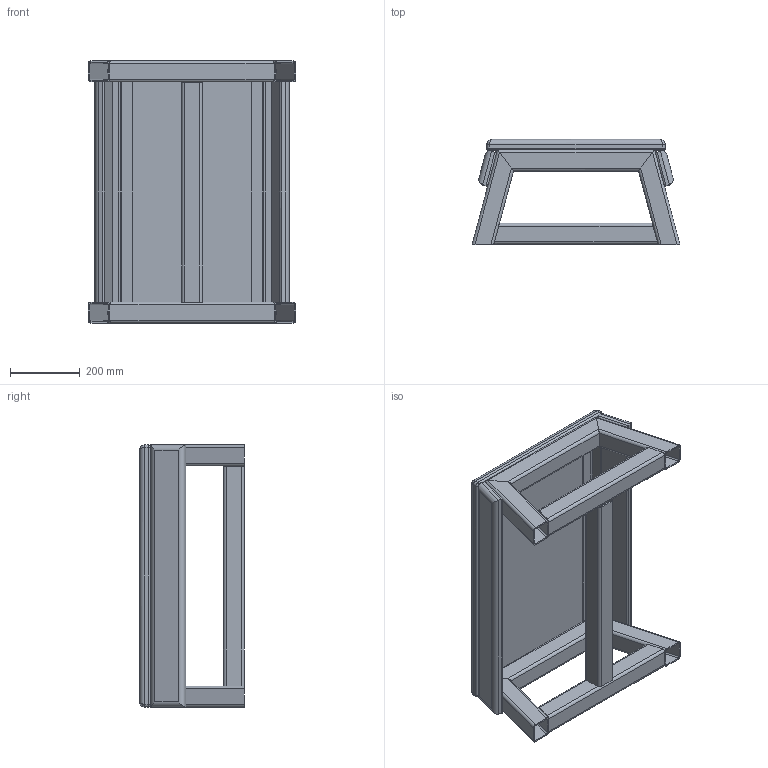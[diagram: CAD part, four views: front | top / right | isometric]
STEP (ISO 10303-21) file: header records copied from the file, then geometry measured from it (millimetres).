
FILE_DESCRIPTION(/* description */ (''),/* implementation_level */ '2;1');
FILE_NAME(/* name */ 'OGPB300_3D_Low.step',/* time_stamp */ '2025-11-11T16:11:24+02:00',/* author */ (''),/* organization */ (''),/* preprocessor_version */ 'ST-DEVELOPER v20.1',/* originating_system */ 'Autodesk Translation Framework v14.21.0.0',/* authorisation */ '');
FILE_SCHEMA (('AUTOMOTIVE_DESIGN { 1 0 10303 214 3 1 1 }'));
Length unit declared in the file: millimetre
Products named in the file (1): OGPB300_3D_Low
Bounding box: 594.68 x 299.98 x 750 mm (x, y, z)
Volume: 18863128.8 mm3; surface area: 2836628.1 mm2
Topology: 14 solids, 14 shells, 272 faces, 660 edges, 420 vertices
Faces by surface type: plane 140, cylinder 124, bspline 8
Full cylindrical faces by diameter (mm): 8.5 x8, 11 x4, 11.5 x8
Entity records: 8230 total; most frequent: CARTESIAN_POINT 1569, DIRECTION 1422, ORIENTED_EDGE 1312, EDGE_CURVE 656, AXIS2_PLACEMENT_3D 501, LINE 420, VECTOR 420, VERTEX_POINT 420
